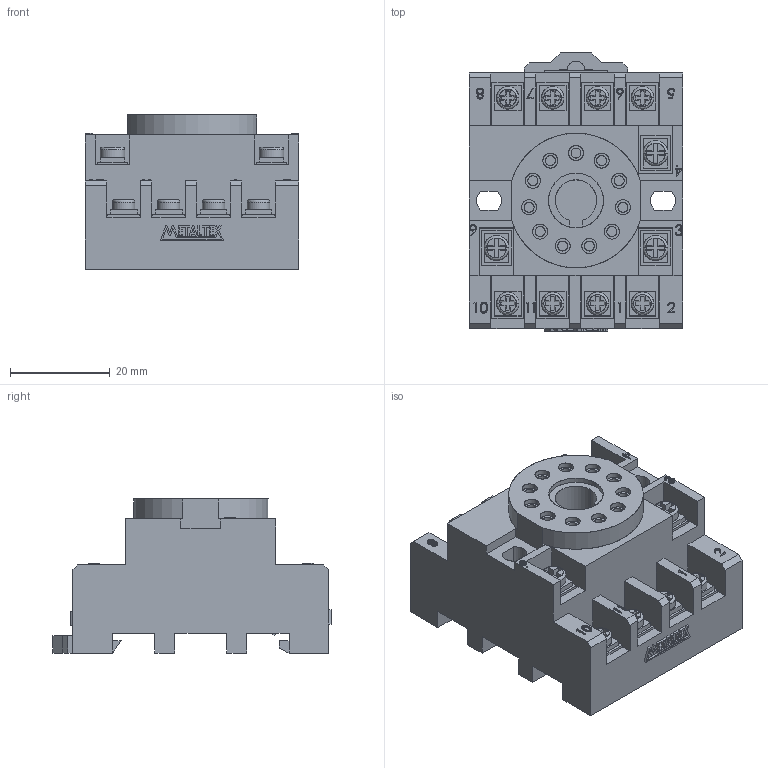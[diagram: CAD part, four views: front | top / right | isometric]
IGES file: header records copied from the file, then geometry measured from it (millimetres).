
Start section: SolidWorks IGES file using analytic representation for surfaces
Global section: file name: D:\X - Arquivos\PROEX\Empresas\P11 - METALTEX\01 - Produtos\IGES\6ª remessa\3ª etapa\PRT9-11.IGS; native system: SolidWorks 2012; preprocessor: SolidWorks 2012; author: Usuario; date: 190222.170619; units: millimetre
Bounding box: 42.85 x 55.7 x 30.9 mm (x, y, z)
Surface area: 14187.5 mm2 (no closed solid volume)
Topology: 0 solids, 0 shells, 927 faces, 8181 edges, 8181 vertices
Faces by surface type: bspline 847, revolution 80
